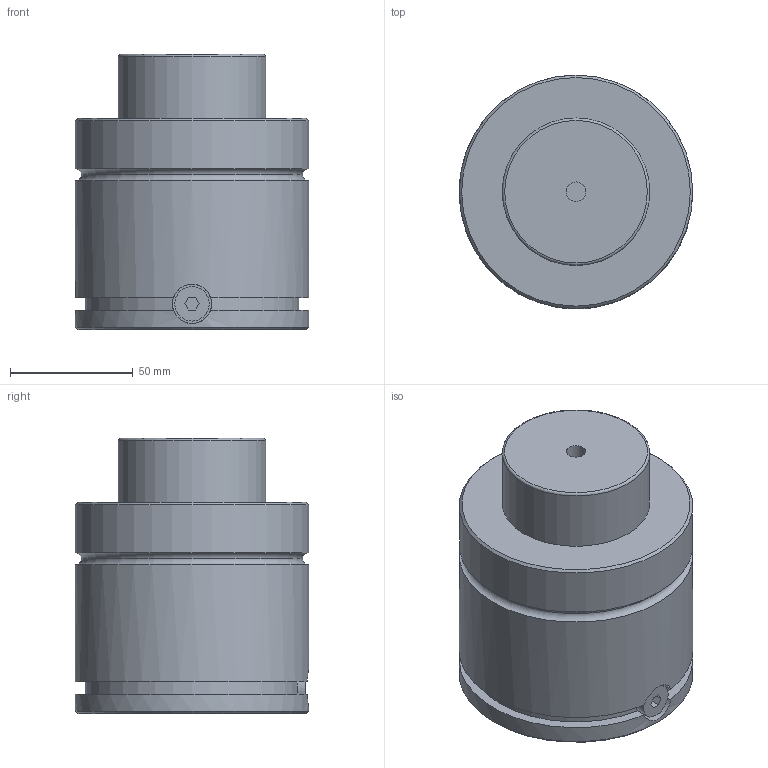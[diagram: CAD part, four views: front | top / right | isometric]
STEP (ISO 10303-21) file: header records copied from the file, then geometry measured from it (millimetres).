
FILE_DESCRIPTION(('FreeCAD Model'),'2;1');
FILE_NAME('Open CASCADE Shape Model','2024-11-12T09:49:17',('Author'),( ''),'Open CASCADE STEP processor 7.6','FreeCAD','Unknown');
FILE_SCHEMA(('AUTOMOTIVE_DESIGN { 1 0 10303 214 1 1 1 1 }'));
Length unit declared in the file: millimetre
Products named in the file (7): Unnamed; Part001; MICRO 95x018; Part016; Cut003; Part017; Cut
Assembly tree (6 placements, depth 3):
  Unnamed
    Part001
      MICRO 95x018
    Part016
      Cut003
    Part017
      Cut
Bounding box: 95 x 95 x 112 mm (x, y, z)
Volume: 671694.2 mm3; surface area: 55252 mm2
Topology: 3 solids, 3 shells, 45 faces, 88 edges, 56 vertices
Faces by surface type: plane 22, cylinder 16, cone 4, torus 3
Full cylindrical faces by diameter (mm): 8 x5, 16 x1, 60 x1, 95 x3
Entity records: 1511 total; most frequent: CARTESIAN_POINT 417, DIRECTION 225, ORIENTED_EDGE 176, AXIS2_PLACEMENT_3D 92, EDGE_CURVE 88, VERTEX_POINT 56, FACE_BOUND 52, EDGE_LOOP 52
